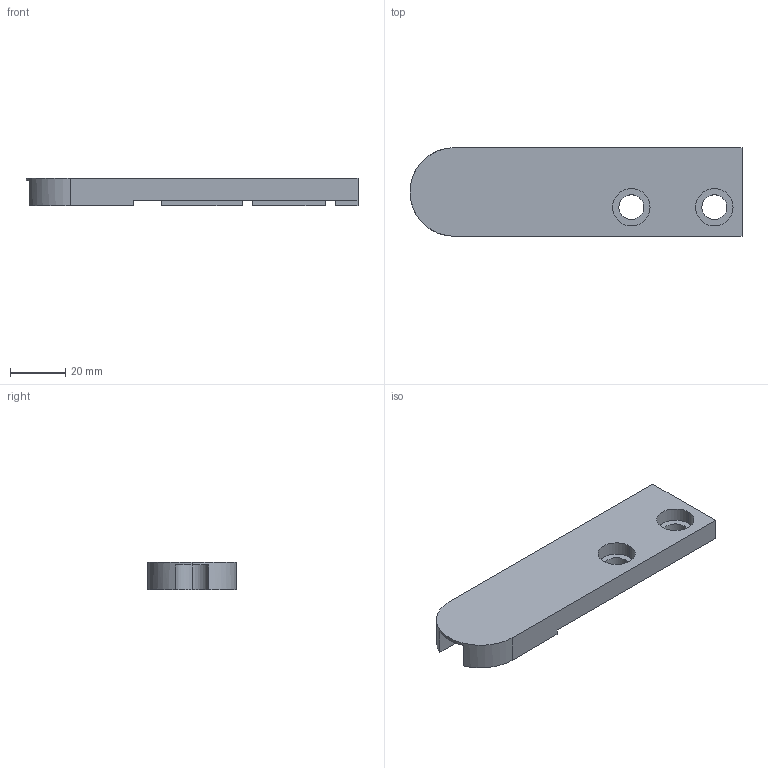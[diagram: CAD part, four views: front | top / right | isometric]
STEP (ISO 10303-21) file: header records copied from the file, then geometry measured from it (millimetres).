
FILE_DESCRIPTION (( 'STEP AP203' ), '1' );
FILE_NAME ('084.801.016 SX.STEP', '2013-01-29T10:37:57', ( 'Alusic' ), ( 'Alusic' ), 'SwSTEP 2.0', 'SolidWorks 2011', '' );
FILE_SCHEMA (( 'CONFIG_CONTROL_DESIGN' ));
Length unit declared in the file: millimetre
Products named in the file (1): 084.801.016 SX
Bounding box: 120 x 32 x 10 mm (x, y, z)
Volume: 29004.7 mm3; surface area: 11073.8 mm2
Topology: 1 solids, 1 shells, 34 faces, 96 edges, 64 vertices
Faces by surface type: plane 22, cylinder 12
Entity records: 1199 total; most frequent: DIRECTION 200, CARTESIAN_POINT 195, ORIENTED_EDGE 192, EDGE_CURVE 96, AXIS2_PLACEMENT_3D 69, VERTEX_POINT 64, VECTOR 62, LINE 62
